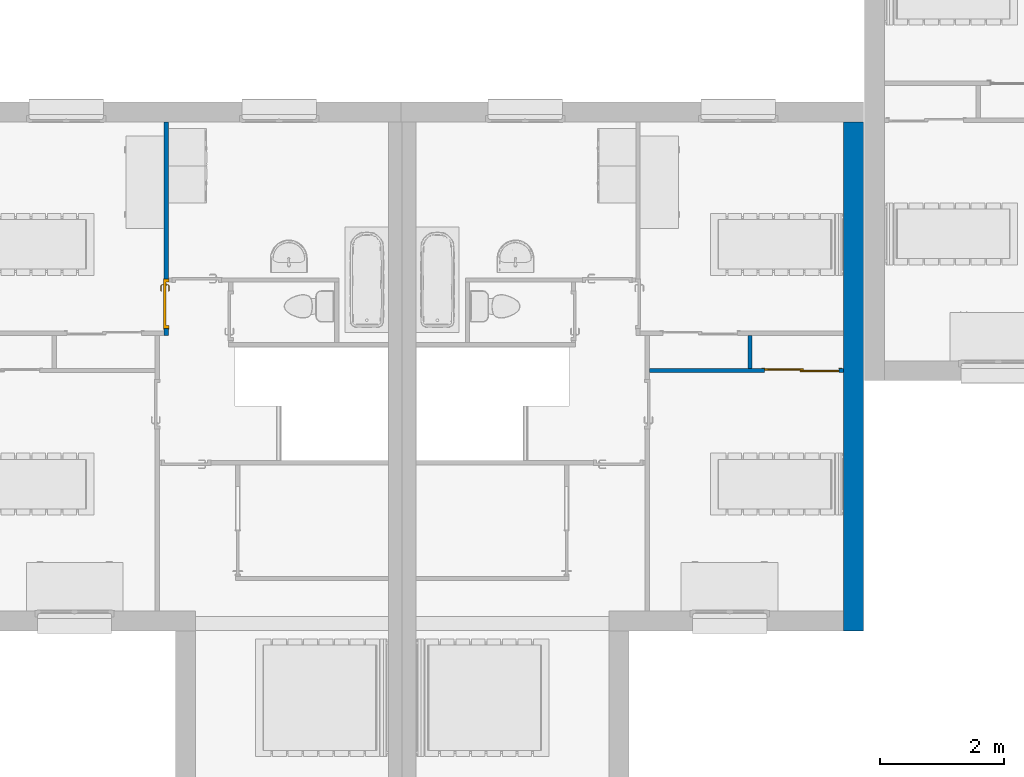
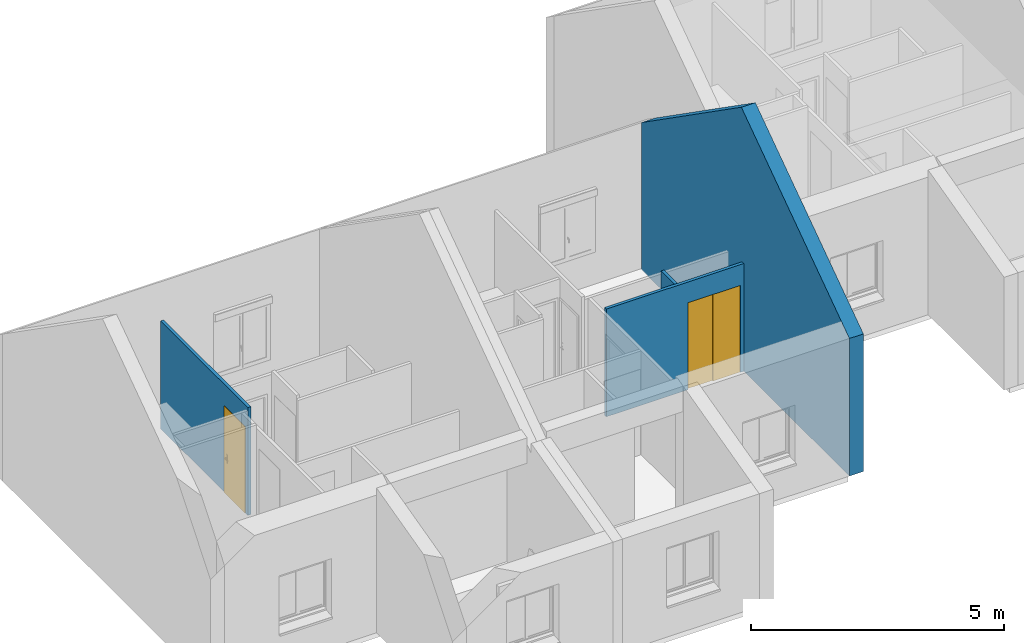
# One storey, part 18 of 50: 4 walls, 2 doors, 2 openings.
"""IFC2X3 building model written with IfcOpenShell, lengths in metres."""

from ifc_helpers import new_model, entity, si_unit, converted_unit, derived_unit, direction, frame, frame_2d, origin, origin_2d_with_axis, place, context, subcontext, project, spatial, polyline, circle_curve, parameter, trimmed, segment, composite_curve, rectangle, outline, extrude, clip, bounded_halfspace, faceted_brep, source, transform, mapped, material, material_list, layer, layer_set, layer_usage, type_object, type_shapes, element, fill, save


model = new_model("IFC2X3")

# Units and contexts
model_context = context("Model", 3, precision=1e-05, world=origin(), true_north=direction((6.12303176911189e-17, 1.0)))
context_of_model = context(None, 3, precision=1e-05, world=origin(), true_north=direction((6.12303176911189e-17, 1.0)))
body_context = subcontext(model_context, "Body", "Model", "MODEL_VIEW")
ifc_project = project(units=[si_unit("LENGTHUNIT", "METRE"), si_unit("AREAUNIT", "SQUARE_METRE"), si_unit("VOLUMEUNIT", "CUBIC_METRE"), converted_unit("PLANEANGLEUNIT", "DEGREE", entity("IfcRatioMeasure", 0.0174532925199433), si_unit("PLANEANGLEUNIT", "RADIAN"), dimensions=[0, 0, 0, 0, 0, 0, 0]), si_unit("MASSUNIT", "GRAM", prefix="KILO"), si_unit("TIMEUNIT", "SECOND"), si_unit("FREQUENCYUNIT", "HERTZ"), si_unit("THERMODYNAMICTEMPERATUREUNIT", "DEGREE_CELSIUS"), derived_unit("THERMALTRANSMITTANCEUNIT", [(si_unit("MASSUNIT", "GRAM", prefix="KILO"), 1), (si_unit("THERMODYNAMICTEMPERATUREUNIT", "KELVIN"), -1), (si_unit("TIMEUNIT", "SECOND"), -3)]), derived_unit("VOLUMETRICFLOWRATEUNIT", [(si_unit("LENGTHUNIT", "METRE"), 3), (si_unit("TIMEUNIT", "SECOND"), -1)]), si_unit("ELECTRICCURRENTUNIT", "AMPERE"), si_unit("ELECTRICVOLTAGEUNIT", "VOLT"), si_unit("POWERUNIT", "WATT"), si_unit("FORCEUNIT", "NEWTON", prefix="KILO"), si_unit("ILLUMINANCEUNIT", "LUX"), si_unit("LUMINOUSFLUXUNIT", "LUMEN"), si_unit("LUMINOUSINTENSITYUNIT", "CANDELA"), si_unit("PRESSUREUNIT", "PASCAL")], contexts=[model_context, context_of_model])

# Site, building, storey
site_placement = place(None, origin())
site = spatial("IfcSite", under=ifc_project, at=site_placement, Name="Surface", CompositionType="ELEMENT")
building_placement = place(site_placement, origin())
building = spatial("IfcBuilding", under=site, at=building_placement, CompositionType="ELEMENT")
storey_placement = place(building_placement, frame((0.0, 0.0, 2.82)))
storey = spatial("IfcBuildingStorey", under=building, at=storey_placement, Name="ETAGE", CompositionType="ELEMENT", Elevation=2.82)

# Wall
ifc_material_1 = material(Name="Enduit blanc cassé2")
ifc_layer_1 = layer(ifc_material_1, 0.02)
ifc_material_2 = material(Name="Parpaing")
ifc_layer_2 = layer(ifc_material_2, 0.2)
ifc_material_3 = material(Name="Isolant")
ifc_layer_3 = layer(ifc_material_3, 0.1)
ifc_layer_set_1 = layer_set([ifc_layer_1, ifc_layer_2, ifc_layer_3], Name="Mur de base:Ext. Parpaing 20 + Isolant 10 enduit blanc cassé")
ifc_layer_usage_1 = layer_usage(ifc_layer_set_1, "AXIS2", "NEGATIVE", 0.16)
wall_type_1 = type_object("IfcWallType", Name="Mur de base:Ext. Parpaing 20 + Isolant 10 enduit blanc cassé", PredefinedType="STANDARD", material=ifc_layer_set_1)
wall_1_placement = place(storey_placement, frame((76.122889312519, 88.1077566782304, 0.0), z_axis=(0.0, 0.0, 1.0), x_axis=(0.0, -1.0, 0.0)))
element("IfcWallStandardCase", 1, at=wall_1_placement, inside=storey, type_object=wall_type_1, material=ifc_layer_usage_1, Name="Mur de base:Ext. Parpaing 20 + Isolant 10 enduit blanc cassé", ObjectType="Mur de base:Ext. Parpaing 20 + Isolant 10 enduit blanc cassé", context=body_context, shape_type="Clipping", body=[
    clip(clip(extrude(rectangle(XDim=8.22, YDim=0.319999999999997, at=frame_2d((4.11, 5.55111512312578e-16), x_axis=(-1.0, 0.0))), origin(), (0.0, 0.0, 1.0), 6.30988618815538), bounded_halfspace(frame((0.0, -0.159999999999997, 3.5440664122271), z_axis=(-0.573576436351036, 0.0, 0.819152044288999), x_axis=(0.0, -1.0, 0.0)), False, frame((0.0, -0.159999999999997, 3.5440664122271)), polyline([(0.0, 0.0), (3.95, 0.0), (3.95, 0.319999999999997), (0.0, 0.319999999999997), (0.0, 0.0)]))), bounded_halfspace(frame((3.95, -0.159999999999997, 6.30988618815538), z_axis=(0.573576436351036, 0.0, 0.819152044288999), x_axis=(0.0, 1.0, 0.0)), False, frame((3.95, -0.159999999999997, 6.30988618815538)), polyline([(0.0, 0.0), (3.95, 0.0), (4.27, 0.0), (4.27, 0.319999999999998), (0.0, 0.319999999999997), (0.0, 0.0)]))),
])

# Wall, opening, door
ifc_material_4 = material(Name="Peinture - Blanc")
ifc_layer_4 = layer(ifc_material_4, 0.07)
ifc_layer_set_2 = layer_set([ifc_layer_4], Name="Mur de base:Int.  Platre 70 mm en blanc")
ifc_layer_usage_2 = layer_usage(ifc_layer_set_2, "AXIS2", "NEGATIVE", 0.035)
wall_type_2 = type_object("IfcWallType", Name="Mur de base:Int.  Platre 70 mm en blanc", PredefinedType="STANDARD", material=ifc_layer_set_2)
wall_2_placement = place(storey_placement, frame((72.8246263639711, 84.0927566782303, 0.0)))
wall_2 = element("IfcWallStandardCase", 2, at=wall_2_placement, inside=storey, type_object=wall_type_2, material=ifc_layer_usage_2, Name="Mur de base:Int.  Platre 70 mm en blanc", ObjectType="Mur de base:Int.  Platre 70 mm en blanc", context=body_context, shape_type="SweptSolid", body=[
    extrude(rectangle(XDim=3.1382629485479, YDim=0.0699999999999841, at=frame_2d((1.56913147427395, -8.53483950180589e-16), x_axis=(-1.0, 0.0))), origin(), (0.0, 0.0, 1.0), 2.6),
])
opening_1_placement = place(wall_2_placement, frame((1.86326294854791, -0.0350000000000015, 0.0)))
opening_1 = element("IfcOpeningElement", 3, at=opening_1_placement, cuts=wall_2, Name="Placard coulissante - 2 panneaux:Placard coulissante - 2 panneaux:1", ObjectType="Opening", context=body_context, shape_type="SweptSolid", body=[
    extrude(rectangle(XDim=2.09999999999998, YDim=1.2, at=frame_2d((1.04999999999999, 0.600000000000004), x_axis=(1.0, 0.0))), frame((0.0, 0.0, 0.0), z_axis=(0.0, 1.0, 0.0), x_axis=(0.0, 0.0, 1.0)), (0.0, 0.0, 1.0), 0.07),
])
ifc_material_5 = material(Name="Placard - Profil")
ifc_material_6 = material(Name="Placard - Encadrement")
ifc_material_7 = material(Name="Placard - Porte")
ifc_material_list_1 = material_list([ifc_material_5, ifc_material_6, ifc_material_7])
ifc_material_list_2 = material_list([ifc_material_5, ifc_material_6, ifc_material_7])
door_style_1 = type_object("IfcDoorStyle", Name="Placard coulissante - 2 panneaux", ConstructionType="NOTDEFINED", OperationType="SLIDING_TO_RIGHT", ParameterTakesPrecedence=False, Sizeable=False, material=ifc_material_list_2)
shared_shape_1 = source(origin(), body_context, "Body", "SweptSolid", [
    extrude(outline(composite_curve([segment(polyline([(-0.0250000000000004, -0.00100000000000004), (0.0249999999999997, -0.00100000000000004)]), True, "CONTINUOUS"), segment(polyline([(0.0249999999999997, -0.00100000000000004), (0.0249999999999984, 0.00100000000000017)]), True, "CONTINUOUS"), segment(trimmed(circle_curve(frame_2d((0.0, -0.212860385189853), x_axis=(-1.0, 0.0)), 0.215316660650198), [parameter(263.332459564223)], [parameter(276.667540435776)], True, "PARAMETER"), True, "CONTINUOUS"), segment(polyline([(-0.0250000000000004, 0.00100000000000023), (-0.0250000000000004, -0.00100000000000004)]), True, "CONTINUOUS")], self_intersect=False)), frame((1.175, 0.00900000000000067, 0.0), z_axis=(0.0, 0.0, 1.0), x_axis=(-1.0, 0.0, 0.0)), (0.0, 0.0, 1.0), 2.1),
    extrude(outline(composite_curve([segment(polyline([(-0.0250000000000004, -0.00100000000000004), (0.0249999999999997, -0.00100000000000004)]), True, "CONTINUOUS"), segment(polyline([(0.0249999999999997, -0.00100000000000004), (0.0249999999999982, 0.00100000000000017)]), True, "CONTINUOUS"), segment(trimmed(circle_curve(frame_2d((0.0, -0.212860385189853), x_axis=(-1.0, 0.0)), 0.215316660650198), [parameter(263.332459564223)], [parameter(276.667540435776)], True, "PARAMETER"), True, "CONTINUOUS"), segment(polyline([(-0.0250000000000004, 0.00100000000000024), (-0.0250000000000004, -0.00100000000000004)]), True, "CONTINUOUS")], self_intersect=False)), frame((0.599999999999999, 0.00900000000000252, 0.0), z_axis=(0.0, 0.0, 1.0), x_axis=(-1.0, 0.0, 0.0)), (0.0, 0.0, 1.0), 2.1),
    extrude(outline(composite_curve([segment(polyline([(-0.0250000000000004, -0.00100000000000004), (0.0249999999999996, -0.00100000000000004)]), True, "CONTINUOUS"), segment(polyline([(0.0249999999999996, -0.00100000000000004), (0.0249999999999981, 0.00100000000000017)]), True, "CONTINUOUS"), segment(trimmed(circle_curve(frame_2d((0.0, -0.212860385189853), x_axis=(-1.0, 0.0)), 0.215316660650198), [parameter(263.332459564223)], [parameter(276.667540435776)], True, "PARAMETER"), True, "CONTINUOUS"), segment(polyline([(-0.0250000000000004, 0.00100000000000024), (-0.0250000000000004, -0.00100000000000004)]), True, "CONTINUOUS")], self_intersect=False)), frame((0.599999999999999, 0.0340000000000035, 0.0), z_axis=(0.0, 0.0, 1.0), x_axis=(-1.0, 0.0, 0.0)), (0.0, 0.0, 1.0), 2.1),
    extrude(outline(composite_curve([segment(polyline([(-0.0250000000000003, -0.00100000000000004), (0.0249999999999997, -0.00100000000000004)]), True, "CONTINUOUS"), segment(polyline([(0.0249999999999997, -0.00100000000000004), (0.0249999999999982, 0.00100000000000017)]), True, "CONTINUOUS"), segment(trimmed(circle_curve(frame_2d((0.0, -0.212860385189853), x_axis=(-1.0, 0.0)), 0.215316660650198), [parameter(263.332459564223)], [parameter(276.667540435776)], True, "PARAMETER"), True, "CONTINUOUS"), segment(polyline([(-0.0250000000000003, 0.00100000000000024), (-0.0250000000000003, -0.00100000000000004)]), True, "CONTINUOUS")], self_intersect=False)), frame((0.0250000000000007, 0.0340000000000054, 0.0), z_axis=(0.0, 0.0, 1.0), x_axis=(-1.0, 0.0, 0.0)), (0.0, 0.0, 1.0), 2.1),
    extrude(outline(polyline([(-1.06149999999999, -0.647999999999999), (1.08649999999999, -0.647999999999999), (1.08649999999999, 0.647999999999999), (-1.06149999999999, 0.647999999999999), (-1.06149999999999, 0.597999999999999), (1.03649999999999, 0.597999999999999), (1.03649999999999, -0.597999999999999), (-1.06149999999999, -0.597999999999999), (-1.06149999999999, -0.647999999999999)])), frame((0.6, -0.003, 1.06149999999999), z_axis=(0.0, 1.0, 0.0), x_axis=(0.0, 0.0, 1.0)), (0.0, 0.0, 1.0), 0.003),
    extrude(rectangle(XDim=0.020000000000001, YDim=0.625000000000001, at=origin_2d_with_axis()), frame((0.8875, 0.0200000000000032, 0.0), z_axis=(0.0, 0.0, 1.0), x_axis=(0.0, 1.0, 0.0)), (0.0, 0.0, 1.0), 2.1),
    extrude(rectangle(XDim=0.02, YDim=0.624999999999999, at=origin_2d_with_axis()), frame((0.3125, 0.0450000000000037, 0.0), z_axis=(0.0, 0.0, 1.0), x_axis=(0.0, 1.0, 0.0)), (0.0, 0.0, 1.0), 2.1),
])
type_shapes(door_style_1, [shared_shape_1])
door_1_placement = place(opening_1_placement, frame((1.2, 0.0699999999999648, 0.0), z_axis=(0.0, 0.0, 1.0), x_axis=(-1.0, 0.0, 0.0)))
door_1 = element("IfcDoor", 4, at=door_1_placement, inside=storey, type_object=door_style_1, material=ifc_material_list_1, Name="Placard coulissante - 2 panneaux:Placard coulissante - 2 panneaux", ObjectType="Placard coulissante - 2 panneaux", OverallHeight=2.09999999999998, OverallWidth=1.2, context=body_context, shape_type="MappedRepresentation", body=[
    mapped(shared_shape_1, transform((0.0, 0.0, 0.0), scale=1.0)),
])
fill(opening_1, door_1)

# Wall
ifc_layer_usage_3 = layer_usage(ifc_layer_set_2, "AXIS2", "NEGATIVE", 0.035)
wall_3_placement = place(storey_placement, frame((74.451257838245, 84.1277566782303, 0.0), z_axis=(0.0, 0.0, 1.0), x_axis=(0.0, 1.0, 0.0)))
element("IfcWallStandardCase", 5, at=wall_3_placement, inside=storey, type_object=wall_type_2, material=ifc_layer_usage_3, Name="Mur de base:Int.  Platre 70 mm en blanc", ObjectType="Mur de base:Int.  Platre 70 mm en blanc", context=body_context, shape_type="SweptSolid", body=[
    extrude(rectangle(XDim=0.529999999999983, YDim=0.0700000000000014, at=frame_2d((0.264999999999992, 0.0), x_axis=(-1.0, 0.0))), origin(), (0.0, 0.0, 1.0), 2.6),
])

# Wall, opening, door
ifc_layer_usage_4 = layer_usage(ifc_layer_set_2, "AXIS2", "POSITIVE", -0.035)
wall_4_placement = place(storey_placement, frame((65.027509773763, 88.1077566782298, 0.0), z_axis=(0.0, 0.0, 1.0), x_axis=(0.0, -1.0, 0.0)))
wall_4 = element("IfcWallStandardCase", 6, at=wall_4_placement, inside=storey, type_object=wall_type_2, material=ifc_layer_usage_4, Name="Mur de base:Int.  Platre 70 mm en blanc", ObjectType="Mur de base:Int.  Platre 70 mm en blanc", context=body_context, shape_type="SweptSolid", body=[
    extrude(rectangle(XDim=3.45000000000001, YDim=0.0700000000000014, at=frame_2d((1.72500000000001, 1.63757896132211e-15), x_axis=(-1.0, 0.0))), origin(), (0.0, 0.0, 1.0), 2.6),
])
opening_2_placement = place(wall_4_placement, frame((3.34000000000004, 0.035000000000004, 0.0)))
opening_2 = element("IfcOpeningElement", 7, at=opening_2_placement, cuts=wall_4, Name="FR_Simple (R):73 x 204 - (70):1", ObjectType="Opening", context=body_context, shape_type="SweptSolid", body=[
    extrude(rectangle(XDim=2.075, YDim=0.799999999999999, at=frame_2d((1.0375, 0.400000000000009), x_axis=(1.0, 0.0))), frame((0.0, 0.0, 0.0), z_axis=(0.0, -1.0, 0.0), x_axis=(0.0, 0.0, 1.0)), (0.0, 0.0, 1.0), 0.07),
])
ifc_material_8 = material(Name="Poignée Porte")
ifc_material_9 = material(Name="Dormants Portes")
ifc_material_10 = material(Name="Panneaux Portes")
ifc_material_list_3 = material_list([ifc_material_8, ifc_material_9, ifc_material_10])
ifc_material_list_4 = material_list([ifc_material_8, ifc_material_9, ifc_material_10])
door_style_2 = type_object("IfcDoorStyle", Name="73 x 204 - (70)", ConstructionType="NOTDEFINED", OperationType="SINGLE_SWING_LEFT", ParameterTakesPrecedence=False, Sizeable=False, material=ifc_material_list_4)
shared_shape_2 = source(origin(), body_context, "Body", "Brep", [
    faceted_brep([(0.100352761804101, -0.0130000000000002, 0.766003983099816), (0.11, -0.0130000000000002, 0.770000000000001), (0.11, -0.0130000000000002, 0.980000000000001), (0.100352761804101, -0.0130000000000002, 0.983996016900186), (0.0900000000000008, -0.0130000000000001, 0.985358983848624), (0.0796472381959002, -0.0130000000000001, 0.983996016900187), (0.0700000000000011, -0.0130000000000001, 0.980000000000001), (0.0700000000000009, -0.0130000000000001, 0.770000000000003), (0.0796472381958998, -0.0130000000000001, 0.766003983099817), (0.0900000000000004, -0.0130000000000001, 0.764641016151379), (0.100352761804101, -0.00800000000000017, 0.983996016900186), (0.11, -0.00800000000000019, 0.980000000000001), (0.11, -0.00800000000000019, 0.770000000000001), (0.100352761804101, -0.00800000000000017, 0.766003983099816), (0.0900000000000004, -0.00800000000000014, 0.764641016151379), (0.0796472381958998, -0.0080000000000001, 0.766003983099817), (0.0700000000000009, -0.00800000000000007, 0.770000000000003), (0.0700000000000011, -0.00800000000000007, 0.980000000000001), (0.0796472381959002, -0.0080000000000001, 0.983996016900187), (0.0900000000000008, -0.00800000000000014, 0.985358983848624)], [[[0, 1, 2, 3, 4, 5, 6, 7, 8, 9]], [[10, 11, 12, 13, 14, 15, 16, 17, 18, 19]], [[16, 15, 8, 7]], [[8, 15, 14, 9]], [[14, 13, 0, 9]], [[13, 12, 1, 0]], [[2, 1, 12, 11]], [[11, 10, 3, 2]], [[3, 10, 19, 4]], [[19, 18, 5, 4]], [[18, 17, 6, 5]], [[7, 6, 17, 16]]]),
    faceted_brep([(0.100352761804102, 0.0319999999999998, 0.766003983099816), (0.110000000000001, 0.0319999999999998, 0.770000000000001), (0.11, 0.0319999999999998, 0.980000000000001), (0.100352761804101, 0.0319999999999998, 0.983996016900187), (0.0900000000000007, 0.0319999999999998, 0.985358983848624), (0.0796472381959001, 0.0319999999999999, 0.983996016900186), (0.0700000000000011, 0.0319999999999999, 0.980000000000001), (0.0700000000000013, 0.0319999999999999, 0.770000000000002), (0.0796472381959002, 0.0319999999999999, 0.766003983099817), (0.0900000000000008, 0.0319999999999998, 0.764641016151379), (0.100352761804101, 0.0369999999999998, 0.983996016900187), (0.11, 0.0369999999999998, 0.980000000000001), (0.110000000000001, 0.0369999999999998, 0.770000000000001), (0.100352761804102, 0.0369999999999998, 0.766003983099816), (0.0900000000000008, 0.0369999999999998, 0.764641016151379), (0.0796472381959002, 0.0369999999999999, 0.766003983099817), (0.0700000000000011, 0.0369999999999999, 0.770000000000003), (0.0700000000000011, 0.0369999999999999, 0.980000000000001), (0.0796472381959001, 0.0369999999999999, 0.983996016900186), (0.0900000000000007, 0.0369999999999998, 0.985358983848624)], [[[0, 1, 2, 3, 4, 5, 6, 7, 8, 9]], [[10, 11, 12, 13, 14, 15, 16, 17, 18, 19]], [[11, 10, 3, 2]], [[3, 10, 19, 4]], [[19, 18, 5, 4]], [[18, 17, 6, 5]], [[7, 6, 17, 16]], [[16, 15, 8, 7]], [[8, 15, 14, 9]], [[14, 13, 0, 9]], [[13, 12, 1, 0]], [[2, 1, 12, 11]]]),
    faceted_brep([(0.0879747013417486, -0.0130000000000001, 0.907780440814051), (0.0920252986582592, -0.0130000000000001, 0.907780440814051), (0.0960000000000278, -0.0130000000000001, 0.906999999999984), (0.0960000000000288, -0.0130000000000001, 0.893000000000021), (0.0920252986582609, -0.0130000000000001, 0.89221955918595), (0.0879747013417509, -0.0130000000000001, 0.892219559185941), (0.0839999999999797, -0.0130000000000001, 0.892999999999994), (0.0839999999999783, -0.0130000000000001, 0.90699999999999), (0.083999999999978, -0.0406509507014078, 0.906999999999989), (0.0879747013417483, -0.0390045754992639, 0.907780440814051), (0.104023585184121, -0.0550534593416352, 0.907780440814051), (0.105701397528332, -0.0510028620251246, 0.907780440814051), (0.0920252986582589, -0.0373267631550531, 0.907780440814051), (0.198521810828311, -0.0473891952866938, 0.90778044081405), (0.195657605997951, -0.0445249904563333, 0.90778044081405), (0.18917973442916, -0.0510028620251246, 0.90778044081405), (0.190857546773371, -0.0550534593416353, 0.90778044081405), (0.0960000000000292, -0.0356803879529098, 0.90699999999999), (0.0960000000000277, -0.0356803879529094, 0.893000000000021), (0.0920252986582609, -0.0373267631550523, 0.89221955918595), (0.105701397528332, -0.0510028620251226, 0.89221955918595), (0.104023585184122, -0.0550534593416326, 0.89221955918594), (0.0879747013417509, -0.0390045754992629, 0.89221955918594), (0.195657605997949, -0.044524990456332, 0.89221955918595), (0.19852181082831, -0.0473891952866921, 0.89221955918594), (0.19085754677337, -0.0550534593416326, 0.89221955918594), (0.18917973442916, -0.0510028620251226, 0.89221955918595), (0.0839999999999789, -0.0406509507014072, 0.892999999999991), (0.102377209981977, -0.0590281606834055, 0.906999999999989), (0.107347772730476, -0.0470281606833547, 0.90699999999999), (0.107347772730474, -0.0470281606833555, 0.893000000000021), (0.102377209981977, -0.0590281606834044, 0.892999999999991), (0.142307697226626, -0.0590281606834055, 0.906999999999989), (0.147440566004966, -0.053182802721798, 0.907878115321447), (0.192503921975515, -0.0590281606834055, 0.906999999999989), (0.147440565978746, -0.0470281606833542, 0.90699999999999), (0.187533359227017, -0.0470281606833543, 0.906999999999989), (0.187533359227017, -0.0470281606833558, 0.89300000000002), (0.147440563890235, -0.0470281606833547, 0.893000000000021), (0.147440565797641, -0.0531828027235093, 0.892121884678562), (0.192503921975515, -0.0590281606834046, 0.892999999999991), (0.152573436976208, -0.0590281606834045, 0.892999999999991), (0.192847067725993, -0.0417144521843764, 0.906999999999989), (0.201332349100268, -0.0501997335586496, 0.906999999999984), (0.201332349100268, -0.05019973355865, 0.892999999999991), (0.192847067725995, -0.0417144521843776, 0.893000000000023)], [[[0, 1, 2, 3, 4, 5, 6, 7]], [[8, 9, 0, 7]], [[9, 10, 11, 12, 1, 0]], [[13, 14, 15, 16]], [[12, 17, 2, 1]], [[3, 2, 17, 18]], [[18, 19, 4, 3]], [[19, 20, 21, 22, 5, 4]], [[23, 24, 25, 26]], [[22, 27, 6, 5]], [[7, 6, 27, 8]], [[28, 10, 9, 8]], [[11, 29, 17, 12]], [[18, 17, 29, 30]], [[30, 20, 19, 18]], [[21, 31, 27, 22]], [[8, 27, 31, 28]], [[32, 33, 10]], [[33, 32, 16]], [[10, 28, 32]], [[34, 16, 32]], [[33, 35, 11]], [[11, 10, 33]], [[15, 35, 33]], [[29, 11, 35]], [[35, 15, 36]], [[15, 33, 16]], [[30, 29, 35, 36, 37, 38]], [[20, 38, 39]], [[25, 40, 41]], [[31, 21, 41]], [[41, 21, 39]], [[39, 38, 26]], [[26, 25, 39]], [[38, 20, 30]], [[37, 26, 38]], [[20, 39, 21]], [[41, 39, 25]], [[28, 31, 41, 40, 34, 32]], [[42, 14, 13, 43, 44, 24, 23, 45]], [[43, 13, 16, 34]], [[14, 42, 36, 15]], [[37, 36, 42, 45]], [[45, 23, 26, 37]], [[24, 44, 40, 25]], [[34, 40, 44, 43]]]),
    faceted_brep([(0.0879747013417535, 0.0369999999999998, 0.892219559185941), (0.092025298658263, 0.0369999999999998, 0.892219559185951), (0.0960000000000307, 0.0369999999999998, 0.893000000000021), (0.096000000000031, 0.0369999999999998, 0.90699999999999), (0.0920252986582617, 0.0369999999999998, 0.907780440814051), (0.0879747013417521, 0.0369999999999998, 0.907780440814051), (0.0839999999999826, 0.0369999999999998, 0.90699999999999), (0.0839999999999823, 0.0369999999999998, 0.892999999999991), (0.0960000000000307, 0.0594852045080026, 0.893000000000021), (0.0960000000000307, 0.0594852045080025, 0.90699999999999), (0.092025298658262, 0.0611315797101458, 0.907780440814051), (0.105838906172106, 0.0749451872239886, 0.907780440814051), (0.104161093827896, 0.0789957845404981, 0.907780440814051), (0.0879747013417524, 0.0628093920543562, 0.907780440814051), (0.195684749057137, 0.0684673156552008, 0.907780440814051), (0.198548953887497, 0.071331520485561, 0.907780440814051), (0.190884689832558, 0.0789957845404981, 0.907780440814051), (0.189206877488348, 0.0749451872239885, 0.907780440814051), (0.0839999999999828, 0.0644557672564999, 0.90699999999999), (0.0839999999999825, 0.0644557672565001, 0.892999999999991), (0.0879747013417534, 0.0628093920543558, 0.892219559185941), (0.104161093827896, 0.0789957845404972, 0.892219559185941), (0.105838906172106, 0.0749451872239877, 0.892219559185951), (0.0920252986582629, 0.0611315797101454, 0.892219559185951), (0.198548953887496, 0.07133152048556, 0.89221955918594), (0.195684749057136, 0.0684673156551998, 0.89221955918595), (0.189206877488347, 0.0749451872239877, 0.89221955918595), (0.190884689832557, 0.0789957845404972, 0.89221955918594), (0.107485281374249, 0.0709704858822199, 0.893000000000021), (0.107485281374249, 0.0709704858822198, 0.90699999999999), (0.102514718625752, 0.0829704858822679, 0.90699999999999), (0.102514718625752, 0.0829704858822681, 0.892999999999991), (0.147522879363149, 0.0709704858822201, 0.89300000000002), (0.187560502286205, 0.0709704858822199, 0.89300000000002), (0.187560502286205, 0.0709704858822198, 0.90699999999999), (0.147522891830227, 0.0709704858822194, 0.90699999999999), (0.147522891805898, 0.0771249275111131, 0.907878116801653), (0.192531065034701, 0.0829704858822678, 0.90699999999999), (0.152600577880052, 0.0829704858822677, 0.90699999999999), (0.192531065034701, 0.082970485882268, 0.892999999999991), (0.142445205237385, 0.0829704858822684, 0.892999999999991), (0.147522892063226, 0.0771249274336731, 0.892121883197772), (0.192874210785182, 0.0656567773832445, 0.89300000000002), (0.201359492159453, 0.0741420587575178, 0.892999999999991), (0.201359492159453, 0.0741420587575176, 0.90699999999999), (0.192874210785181, 0.0656567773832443, 0.90699999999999)], [[[0, 1, 2, 3, 4, 5, 6, 7]], [[3, 2, 8, 9]], [[9, 10, 4, 3]], [[10, 11, 12, 13, 5, 4]], [[14, 15, 16, 17]], [[13, 18, 6, 5]], [[7, 6, 18, 19]], [[19, 20, 0, 7]], [[20, 21, 22, 23, 1, 0]], [[24, 25, 26, 27]], [[23, 8, 2, 1]], [[9, 8, 28, 29]], [[29, 11, 10, 9]], [[12, 30, 18, 13]], [[19, 18, 30, 31]], [[31, 21, 20, 19]], [[22, 28, 8, 23]], [[28, 32, 33, 34, 35, 29]], [[11, 35, 36]], [[16, 37, 38]], [[30, 12, 38]], [[38, 12, 36]], [[36, 35, 17]], [[17, 16, 36]], [[35, 11, 29]], [[34, 17, 35]], [[11, 36, 12]], [[38, 36, 16]], [[31, 30, 38, 37, 39, 40]], [[40, 41, 21]], [[41, 40, 27]], [[21, 31, 40]], [[39, 27, 40]], [[41, 32, 22]], [[22, 21, 41]], [[26, 32, 41]], [[28, 22, 32]], [[32, 26, 33]], [[26, 41, 27]], [[42, 25, 24, 43, 44, 15, 14, 45]], [[34, 33, 42, 45]], [[45, 14, 17, 34]], [[15, 44, 37, 16]], [[39, 37, 44, 43]], [[43, 24, 27, 39]], [[25, 42, 33, 26]]]),
    faceted_brep([(0.0, 0.0, 0.0), (0.0, 0.0700000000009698, 0.0), (-0.00999999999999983, 0.0700000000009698, 0.0), (-0.00999999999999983, 0.0780000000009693, 0.0), (0.0499999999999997, 0.0780000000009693, 0.0), (0.0499999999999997, 0.032, 0.0), (0.0350000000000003, 0.032, 0.0), (0.0350000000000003, -0.00799999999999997, 0.0), (-0.00999999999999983, -0.00799999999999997, 0.0), (-0.00999999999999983, 0.0, 0.0), (0.0, 0.0, 2.075), (0.0, 0.0700000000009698, 2.075), (0.799999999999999, 0.0700000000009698, 2.075), (0.799999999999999, 0.0700000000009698, 0.0), (0.809999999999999, 0.0700000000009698, 0.0), (0.809999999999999, 0.0700000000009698, 2.085), (-0.00999999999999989, 0.0700000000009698, 2.085), (-0.00999999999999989, 0.0780000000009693, 2.085), (0.809999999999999, 0.0780000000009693, 2.085), (0.809999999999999, 0.0780000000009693, 0.0), (0.75, 0.0780000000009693, 0.0), (0.75, 0.0780000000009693, 2.025), (0.0499999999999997, 0.0780000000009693, 2.025), (0.0499999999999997, 0.032, 2.025), (0.75, 0.032, 2.025), (0.75, 0.032, 0.0), (0.764999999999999, 0.032, 0.0), (0.764999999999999, 0.032, 2.04), (0.0350000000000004, 0.032, 2.04), (0.0350000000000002, -0.00799999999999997, 2.04), (0.764999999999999, -0.00799999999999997, 2.04), (0.764999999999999, -0.00799999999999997, 0.0), (0.809999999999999, -0.00799999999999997, 0.0), (0.809999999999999, -0.00799999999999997, 2.085), (-0.00999999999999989, -0.00799999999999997, 2.085), (-0.00999999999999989, 0.0, 2.085), (0.809999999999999, 0.0, 2.085), (0.809999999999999, 0.0, 0.0), (0.799999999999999, 0.0, 0.0), (0.799999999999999, 0.0, 2.075)], [[[0, 1, 2, 3, 4, 5, 6, 7, 8, 9]], [[1, 0, 10, 11]], [[2, 1, 11, 12, 13, 14, 15, 16]], [[3, 2, 16, 17]], [[4, 3, 17, 18, 19, 20, 21, 22]], [[5, 4, 22, 23]], [[6, 5, 23, 24, 25, 26, 27, 28]], [[7, 6, 28, 29]], [[8, 7, 29, 30, 31, 32, 33, 34]], [[9, 8, 34, 35]], [[0, 9, 35, 36, 37, 38, 39, 10]], [[11, 10, 39, 12]], [[17, 16, 15, 18]], [[23, 22, 21, 24]], [[29, 28, 27, 30]], [[35, 34, 33, 36]], [[38, 37, 32, 31, 26, 25, 20, 19, 14, 13]], [[12, 39, 38, 13]], [[18, 15, 14, 19]], [[24, 21, 20, 25]], [[30, 27, 26, 31]], [[36, 33, 32, 37]]]),
    faceted_brep([(0.0350000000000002, -0.00799999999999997, 2.04), (0.0350000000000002, -0.00799999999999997, 0.0), (0.764999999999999, -0.00799999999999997, 0.0), (0.764999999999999, -0.00799999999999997, 2.04), (0.0350000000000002, 0.032, 2.04), (0.764999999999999, 0.032, 2.04), (0.764999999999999, 0.032, 0.0), (0.0350000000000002, 0.032, 0.0)], [[[0, 1, 2, 3]], [[4, 5, 6, 7]], [[1, 0, 4, 7]], [[2, 1, 7, 6]], [[3, 2, 6, 5]], [[0, 3, 5, 4]]]),
])
type_shapes(door_style_2, [shared_shape_2])
door_2_placement = place(opening_2_placement, frame((-0.800000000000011, -0.0699999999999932, 0.0)))
door_2 = element("IfcDoor", 8, at=door_2_placement, inside=storey, type_object=door_style_2, material=ifc_material_list_3, Name="FR_Simple (R):73 x 204 - (70)", ObjectType="73 x 204 - (70)", OverallHeight=2.075, OverallWidth=0.800000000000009, context=body_context, shape_type="MappedRepresentation", body=[
    mapped(shared_shape_2, transform((0.0, 0.0, 0.0), scale=1.0)),
])
fill(opening_2, door_2)

save(model, "model.ifc")
